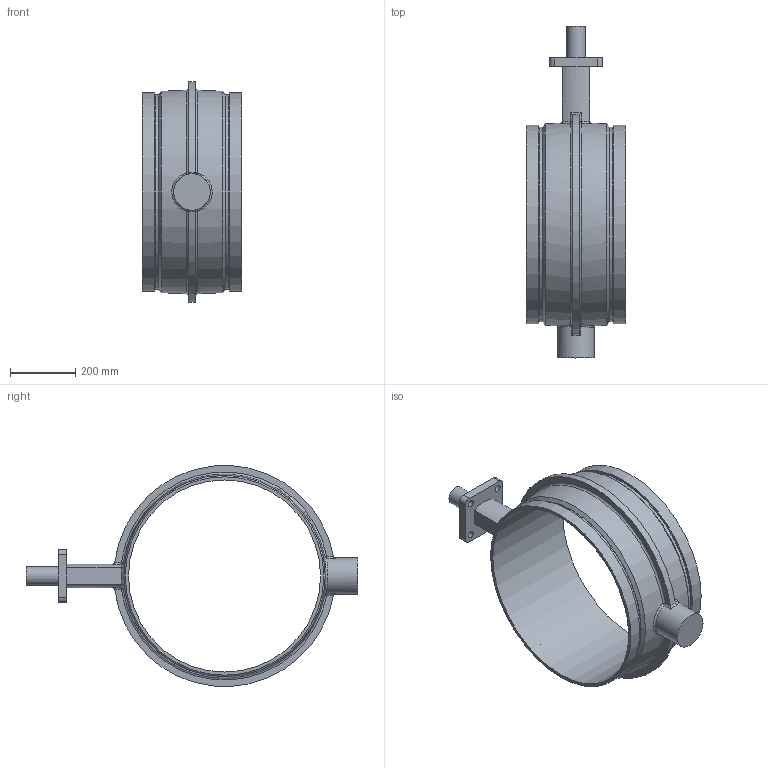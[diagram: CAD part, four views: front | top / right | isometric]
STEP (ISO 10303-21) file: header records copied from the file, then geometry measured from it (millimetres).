
FILE_DESCRIPTION(/* description */ ('VIC AGS VALVE BUTTERFLY VIC-300 MS BARE SERIES W761 (AGS)'),/* implementation_level */ '2;1');
FILE_NAME(/* name */ 'C:\Files for Export\W761\STEP\Victaulic_IPS-AGS_Vlv Btfl Vic-300 MS Bare_Series W761 (AGS)\Victaulic_IPS-AGS_Vlv Btfl Vic-300 MS Bare_Series W761 (AGS)_24 (600).stp',/* time_stamp */ '2024-08-27T14:18:42+02:00',/* author */ ('jheald'),/* organization */ ('Victaulic'),/* preprocessor_version */ 'ST-DEVELOPER v18.1',/* originating_system */ 'Autodesk Inventor 2020',/* authorisation */ '');
FILE_SCHEMA (('AUTOMOTIVE_DESIGN { 1 0 10303 214 3 1 1 }'));
Length unit declared in the file: inch
Products named in the file (1): W761-24.0
Bounding box: 304.8 x 1019.3 x 678.39 mm (x, y, z)
Volume: 11661548.8 mm3; surface area: 1485541 mm2
Topology: 1 solids, 1 shells, 77 faces, 206 edges, 135 vertices
Faces by surface type: cylinder 27, plane 18, torus 10, bspline 10, sphere 8, cone 4
Full cylindrical faces by diameter (mm): 21.336 x4, 57.15 x1, 111.76 x1, 590.042 x1, 596.9 x2, 609.6 x2
Entity records: 3046 total; most frequent: CARTESIAN_POINT 1006, ORIENTED_EDGE 414, DIRECTION 394, EDGE_CURVE 207, AXIS2_PLACEMENT_3D 170, VERTEX_POINT 136, CIRCLE 102, EDGE_LOOP 91
